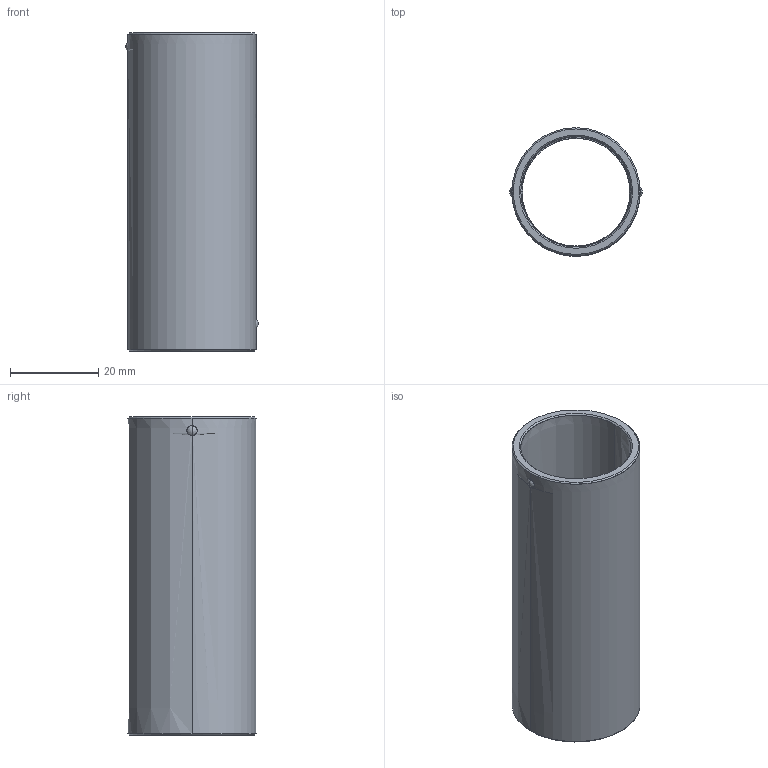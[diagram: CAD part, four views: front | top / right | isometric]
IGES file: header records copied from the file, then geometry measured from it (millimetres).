
Start section: START RECORD GO HERE.
Global section: file name: 730-24x72.igs; native system: DASSAULT SYSTEMES CATIA V5 R20 - www.3ds.com; preprocessor: CATIA Version 5 Release 20 ; author: Utente; organization: NB04-ASUS; date: 20210107.171525; units: millimetre
Bounding box: 30 x 29 x 72 mm (x, y, z)
Surface area: 12730.3 mm2 (no closed solid volume)
Topology: 0 solids, 0 shells, 44 faces, 240 edges, 240 vertices
Faces by surface type: revolution 36, plane 8
